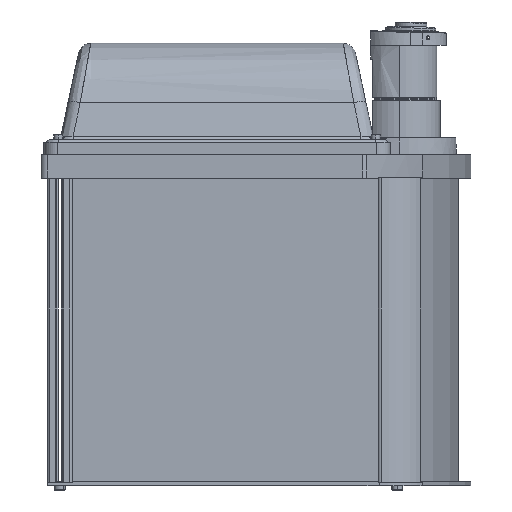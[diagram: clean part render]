
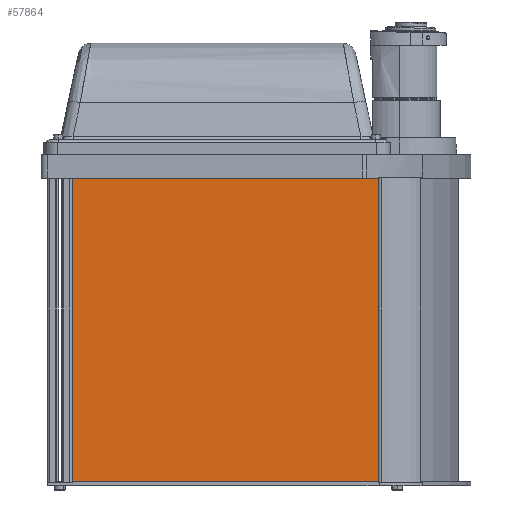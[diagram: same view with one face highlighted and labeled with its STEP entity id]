
A CAD part, left-side view. The second image highlights one B-rep face of the part: STEP entity #57864.
In plain terms, the highlighted free-form (B-spline) face has degree [1, 1] with [2, 2] control points.
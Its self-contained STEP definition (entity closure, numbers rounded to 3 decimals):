
#57864 = ADVANCED_FACE('',(#57865),#57879,.T.);
#57865 = FACE_BOUND('',#57866,.T.);
#57866 = EDGE_LOOP('',(#57867,#57889,#57904,#57919));
#57867 = ORIENTED_EDGE('',*,*,#57868,.T.);
#57868 = EDGE_CURVE('',#57869,#57871,#57873,.T.);
#57869 = VERTEX_POINT('',#57870);
#57870 = CARTESIAN_POINT('',(-156.672,11.575,-22.551));
#57871 = VERTEX_POINT('',#57872);
#57872 = CARTESIAN_POINT('',(-156.672,267.075,-22.551));
#57873 = SURFACE_CURVE('',#57874,(#57878),.PCURVE_S1.);
#57874 = LINE('',#57875,#57876);
#57875 = CARTESIAN_POINT('',(-156.672,11.575,-22.551));
#57876 = VECTOR('',#57877,1.);
#57877 = DIRECTION('',(0.,1.,0.));
#57878 = PCURVE('',#57879,#57884);
#57879 = B_SPLINE_SURFACE_WITH_KNOTS('',1,1,(
    (#57880,#57881)
    ,(#57882,#57883
    )),.UNSPECIFIED.,.F.,.F.,.F.,(2,2),(2,2),(0.,1.),(0.,1.),
  .PIECEWISE_BEZIER_KNOTS.);
#57880 = CARTESIAN_POINT('',(-156.672,11.575,221.449));
#57881 = CARTESIAN_POINT('',(-156.672,267.075,221.449));
#57882 = CARTESIAN_POINT('',(-156.672,11.575,-22.551));
#57883 = CARTESIAN_POINT('',(-156.672,267.075,-22.551));
#57884 = DEFINITIONAL_REPRESENTATION('',(#57885),#57888);
#57885 = B_SPLINE_CURVE_WITH_KNOTS('',1,(#57886,#57887),.UNSPECIFIED.,
  .F.,.F.,(2,2),(0.,255.5),.PIECEWISE_BEZIER_KNOTS.);
#57886 = CARTESIAN_POINT('',(1.,0.));
#57887 = CARTESIAN_POINT('',(1.,1.));
#57888 = ( GEOMETRIC_REPRESENTATION_CONTEXT(2) 
PARAMETRIC_REPRESENTATION_CONTEXT() REPRESENTATION_CONTEXT('',''
  ) );
#57889 = ORIENTED_EDGE('',*,*,#57890,.T.);
#57890 = EDGE_CURVE('',#57871,#57891,#57893,.T.);
#57891 = VERTEX_POINT('',#57892);
#57892 = CARTESIAN_POINT('',(-156.672,267.075,221.449));
#57893 = SURFACE_CURVE('',#57894,(#57898),.PCURVE_S1.);
#57894 = LINE('',#57895,#57896);
#57895 = CARTESIAN_POINT('',(-156.672,267.075,-22.551));
#57896 = VECTOR('',#57897,1.);
#57897 = DIRECTION('',(0.,0.,1.));
#57898 = PCURVE('',#57879,#57899);
#57899 = DEFINITIONAL_REPRESENTATION('',(#57900),#57903);
#57900 = B_SPLINE_CURVE_WITH_KNOTS('',1,(#57901,#57902),.UNSPECIFIED.,
  .F.,.F.,(2,2),(0.,244.),.PIECEWISE_BEZIER_KNOTS.);
#57901 = CARTESIAN_POINT('',(1.,1.));
#57902 = CARTESIAN_POINT('',(0.,1.));
#57903 = ( GEOMETRIC_REPRESENTATION_CONTEXT(2) 
PARAMETRIC_REPRESENTATION_CONTEXT() REPRESENTATION_CONTEXT('',''
  ) );
#57904 = ORIENTED_EDGE('',*,*,#57905,.T.);
#57905 = EDGE_CURVE('',#57891,#57906,#57908,.T.);
#57906 = VERTEX_POINT('',#57907);
#57907 = CARTESIAN_POINT('',(-156.672,11.575,221.449));
#57908 = SURFACE_CURVE('',#57909,(#57913),.PCURVE_S1.);
#57909 = LINE('',#57910,#57911);
#57910 = CARTESIAN_POINT('',(-156.672,267.075,221.449));
#57911 = VECTOR('',#57912,1.);
#57912 = DIRECTION('',(0.,-1.,0.));
#57913 = PCURVE('',#57879,#57914);
#57914 = DEFINITIONAL_REPRESENTATION('',(#57915),#57918);
#57915 = B_SPLINE_CURVE_WITH_KNOTS('',1,(#57916,#57917),.UNSPECIFIED.,
  .F.,.F.,(2,2),(0.,255.5),.PIECEWISE_BEZIER_KNOTS.);
#57916 = CARTESIAN_POINT('',(0.,1.));
#57917 = CARTESIAN_POINT('',(0.,0.));
#57918 = ( GEOMETRIC_REPRESENTATION_CONTEXT(2) 
PARAMETRIC_REPRESENTATION_CONTEXT() REPRESENTATION_CONTEXT('',''
  ) );
#57919 = ORIENTED_EDGE('',*,*,#57920,.T.);
#57920 = EDGE_CURVE('',#57906,#57869,#57921,.T.);
#57921 = SURFACE_CURVE('',#57922,(#57926),.PCURVE_S1.);
#57922 = LINE('',#57923,#57924);
#57923 = CARTESIAN_POINT('',(-156.672,11.575,221.449));
#57924 = VECTOR('',#57925,1.);
#57925 = DIRECTION('',(0.,0.,-1.));
#57926 = PCURVE('',#57879,#57927);
#57927 = DEFINITIONAL_REPRESENTATION('',(#57928),#57931);
#57928 = B_SPLINE_CURVE_WITH_KNOTS('',1,(#57929,#57930),.UNSPECIFIED.,
  .F.,.F.,(2,2),(0.,244.),.PIECEWISE_BEZIER_KNOTS.);
#57929 = CARTESIAN_POINT('',(0.,0.));
#57930 = CARTESIAN_POINT('',(1.,0.));
#57931 = ( GEOMETRIC_REPRESENTATION_CONTEXT(2) 
PARAMETRIC_REPRESENTATION_CONTEXT() REPRESENTATION_CONTEXT('',''
  ) );
